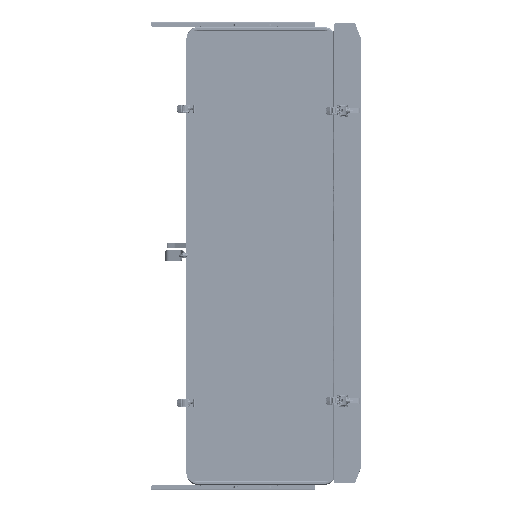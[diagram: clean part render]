
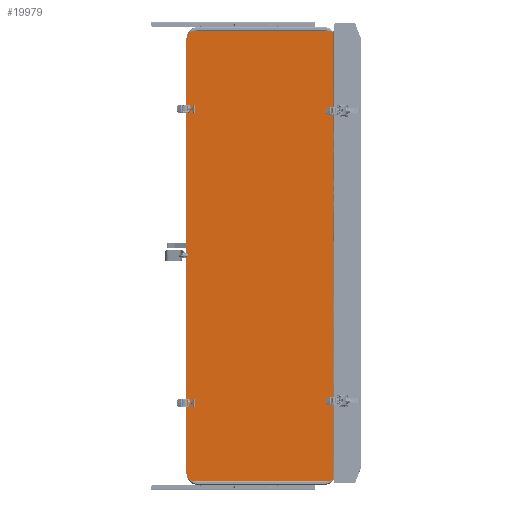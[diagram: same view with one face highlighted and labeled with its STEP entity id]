
A CAD part, top view. The second image highlights one B-rep face of the part: STEP entity #19979.
In plain terms, the highlighted planar face has unit normal (0, 0, -1).
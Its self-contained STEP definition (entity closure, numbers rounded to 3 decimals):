
#19741=AXIS2_PLACEMENT_3D('Circle Axis2P3D',#19739,#19740,$) ;
#19820=AXIS2_PLACEMENT_3D('Circle Axis2P3D',#19818,#19819,$) ;
#19898=AXIS2_PLACEMENT_3D('Circle Axis2P3D',#19896,#19897,$) ;
#19950=AXIS2_PLACEMENT_3D('Plane Axis2P3D',#19947,#19948,#19949) ;
#19689=CARTESIAN_POINT('Vertex',(2394.56,1071.,625.431)) ;
#19692=CARTESIAN_POINT('Line Origine',(2073.378,1071.,625.431)) ;
#19696=CARTESIAN_POINT('Vertex',(1752.196,1071.,625.431)) ;
#19736=CARTESIAN_POINT('Vertex',(2428.06,1037.5,625.431)) ;
#19739=CARTESIAN_POINT('Axis2P3D Location',(2394.56,1037.5,625.431)) ;
#19774=CARTESIAN_POINT('Vertex',(2428.06,-1037.5,625.431)) ;
#19777=CARTESIAN_POINT('Line Origine',(2428.06,0.,625.431)) ;
#19815=CARTESIAN_POINT('Vertex',(2394.56,-1071.,625.431)) ;
#19818=CARTESIAN_POINT('Axis2P3D Location',(2394.56,-1037.5,625.431)) ;
#19853=CARTESIAN_POINT('Vertex',(1752.196,-1071.,625.431)) ;
#19856=CARTESIAN_POINT('Line Origine',(2073.378,-1071.,625.431)) ;
#19893=CARTESIAN_POINT('Vertex',(1718.696,-1037.5,625.431)) ;
#19896=CARTESIAN_POINT('Axis2P3D Location',(1752.196,-1037.5,625.431)) ;
#19925=CARTESIAN_POINT('Vertex',(1718.696,1037.5,625.431)) ;
#19930=CARTESIAN_POINT('Line Origine',(1718.696,0.,625.431)) ;
#19947=CARTESIAN_POINT('Axis2P3D Location',(2453.06,0.,625.431)) ;
#19953=CARTESIAN_POINT('Control Point',(1752.196,1071.,625.431)) ;
#19954=CARTESIAN_POINT('Control Point',(1749.077,1071.,625.431)) ;
#19955=CARTESIAN_POINT('Control Point',(1745.959,1070.637,625.431)) ;
#19956=CARTESIAN_POINT('Control Point',(1742.895,1069.911,625.431)) ;
#19957=CARTESIAN_POINT('Control Point',(1736.995,1067.759,625.431)) ;
#19958=CARTESIAN_POINT('Control Point',(1731.747,1064.311,625.431)) ;
#19959=CARTESIAN_POINT('Control Point',(1729.336,1062.287,625.431)) ;
#19960=CARTESIAN_POINT('Control Point',(1725.03,1057.716,625.431)) ;
#19961=CARTESIAN_POINT('Control Point',(1721.889,1052.279,625.431)) ;
#19962=CARTESIAN_POINT('Control Point',(1720.642,1049.387,625.431)) ;
#19963=CARTESIAN_POINT('Control Point',(1719.408,1045.253,625.431)) ;
#19964=CARTESIAN_POINT('Control Point',(1718.849,1040.999,625.431)) ;
#19965=CARTESIAN_POINT('Control Point',(1718.747,1039.835,625.431)) ;
#19966=CARTESIAN_POINT('Control Point',(1718.696,1038.667,625.431)) ;
#19967=CARTESIAN_POINT('Control Point',(1718.696,1037.5,625.431)) ;
#19693=DIRECTION('Vector Direction',(-1.,0.,0.)) ;
#19740=DIRECTION('Axis2P3D Direction',(0.,0.,-1.)) ;
#19778=DIRECTION('Vector Direction',(0.,1.,0.)) ;
#19819=DIRECTION('Axis2P3D Direction',(0.,0.,-1.)) ;
#19857=DIRECTION('Vector Direction',(1.,0.,0.)) ;
#19897=DIRECTION('Axis2P3D Direction',(0.,0.,1.)) ;
#19931=DIRECTION('Vector Direction',(0.,1.,0.)) ;
#19948=DIRECTION('Axis2P3D Direction',(0.,0.,1.)) ;
#19949=DIRECTION('Axis2P3D XDirection',(0.,-1.,0.)) ;
#19694=VECTOR('Line Direction',#19693,1.) ;
#19779=VECTOR('Line Direction',#19778,1.) ;
#19858=VECTOR('Line Direction',#19857,1.) ;
#19932=VECTOR('Line Direction',#19931,1.) ;
#19970=ORIENTED_EDGE('',*,*,#19968,.F.) ;
#19971=ORIENTED_EDGE('',*,*,#19698,.T.) ;
#19972=ORIENTED_EDGE('',*,*,#19743,.T.) ;
#19973=ORIENTED_EDGE('',*,*,#19781,.T.) ;
#19974=ORIENTED_EDGE('',*,*,#19822,.T.) ;
#19975=ORIENTED_EDGE('',*,*,#19860,.T.) ;
#19976=ORIENTED_EDGE('',*,*,#19900,.T.) ;
#19977=ORIENTED_EDGE('',*,*,#19934,.T.) ;
#19979=ADVANCED_FACE('\X2\66F29762\X0\.16',(#19978),#19951,.F.) ;
#19952=B_SPLINE_CURVE_WITH_KNOTS('',5,(#19953,#19954,#19955,#19956,#19957,#19958,#19959,#19960,#19961,#19962,#19963,#19964,#19965,#19966,#19967),.UNSPECIFIED.,.F.,.U.,(6,3,3,3,6),(0.,22.099,44.197,66.296,74.567),.UNSPECIFIED.) ;
#19742=CIRCLE('generated circle',#19741,33.5) ;
#19821=CIRCLE('generated circle',#19820,33.5) ;
#19899=CIRCLE('generated circle',#19898,33.5) ;
#19698=EDGE_CURVE('',#19697,#19690,#19695,.F.) ;
#19743=EDGE_CURVE('',#19690,#19737,#19742,.T.) ;
#19781=EDGE_CURVE('',#19737,#19775,#19780,.F.) ;
#19822=EDGE_CURVE('',#19775,#19816,#19821,.T.) ;
#19860=EDGE_CURVE('',#19816,#19854,#19859,.F.) ;
#19900=EDGE_CURVE('',#19854,#19894,#19899,.F.) ;
#19934=EDGE_CURVE('',#19894,#19926,#19933,.T.) ;
#19968=EDGE_CURVE('',#19697,#19926,#19952,.T.) ;
#19969=EDGE_LOOP('',(#19970,#19971,#19972,#19973,#19974,#19975,#19976,#19977)) ;
#19978=FACE_OUTER_BOUND('',#19969,.T.) ;
#19695=LINE('Line',#19692,#19694) ;
#19780=LINE('Line',#19777,#19779) ;
#19859=LINE('Line',#19856,#19858) ;
#19933=LINE('Line',#19930,#19932) ;
#19951=PLANE('Plane',#19950) ;
#19690=VERTEX_POINT('',#19689) ;
#19697=VERTEX_POINT('',#19696) ;
#19737=VERTEX_POINT('',#19736) ;
#19775=VERTEX_POINT('',#19774) ;
#19816=VERTEX_POINT('',#19815) ;
#19854=VERTEX_POINT('',#19853) ;
#19894=VERTEX_POINT('',#19893) ;
#19926=VERTEX_POINT('',#19925) ;
